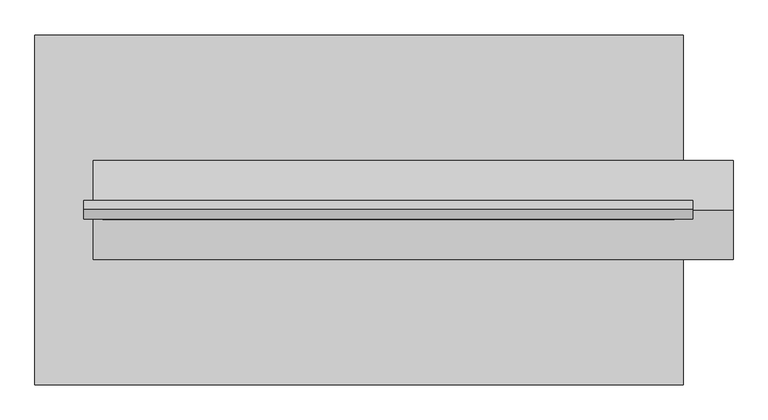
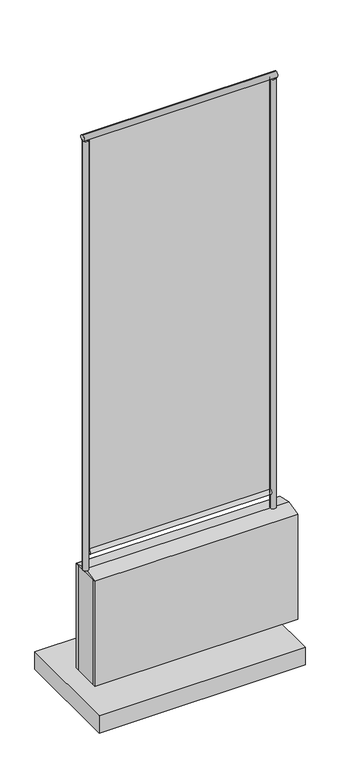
"""IFC4 building model written with IfcOpenShell, lengths in millimetres: plate geometry, FDE_FQ01_FechamentoParaQuadradeEsportes : FQ01_LateraisSapata."""

from ifc_helpers import new_model, si_unit, point, frame, frame_2d, origin, place, context, project, spatial, polyline, circle_curve, trimmed, segment, composite_curve, outline, extrude, source, transform, mapped, element, save


def plate_b688e3d6(model_context):
    return source(origin(), model_context, "Body", "SweptSolid", [
        extrude(outline(composite_curve([segment(trimmed(circle_curve(frame_2d((-505.6494743, 0.0)), 16.0), [point((-521.6494743, 0.0))], [point((-489.6494743, 0.0))], False, "CARTESIAN"), True, "CONTINUOUS"), segment(trimmed(circle_curve(frame_2d((-505.6494743, 0.0)), 16.0), [point((-489.6494743, 0.0))], [point((-521.6494743, 0.0))], False, "CARTESIAN"), True, "CONTINUOUS")], self_intersect=False)), frame((0.0, 0.0, 920.0), z_axis=(0.0, 0.0, 1.0), x_axis=(1.0, 0.0, 0.0)), (0.0, 0.0, 1.0), 2448.0),
        extrude(outline(composite_curve([segment(trimmed(circle_curve(frame_2d((505.6494743, 0.0)), 16.0), [point((489.6494743, 0.0))], [point((521.6494743, 0.0))], False, "CARTESIAN"), True, "CONTINUOUS"), segment(trimmed(circle_curve(frame_2d((505.6494743, 0.0)), 16.0), [point((521.6494743, 0.0))], [point((489.6494743, 0.0))], False, "CARTESIAN"), True, "CONTINUOUS")], self_intersect=False)), frame((0.0, 0.0, 920.0), z_axis=(0.0, 0.0, 1.0), x_axis=(1.0, 0.0, 0.0)), (0.0, 0.0, 1.0), 2448.0),
        extrude(outline(polyline([(505.6494743, 300.0), (505.6494743, -300.0), (-605.6494743, -300.0), (-605.6494743, 300.0), (505.6494743, 300.0)])), frame((0.0, 0.0, 200.0), z_axis=(0.0, 0.0, 1.0), x_axis=(1.0, 0.0, 0.0)), (0.0, 0.0, 1.0), 100.0),
        extrude(outline(polyline([(85.0, 900.0), (-85.0, 900.0), (0.0, 920.0), (85.0, 900.0)])), frame((-505.6494743, 0.0, 0.0), z_axis=(1.0, 0.0, 0.0), x_axis=(0.0, 1.0, 0.0)), (0.0, 0.0, 1.0), 1096.2989486),
        extrude(outline(polyline([(-505.6494743, -85.0), (-505.6494743, -70.0), (590.6494743, -70.0), (590.6494743, -85.0), (-505.6494743, -85.0)])), frame((0.0, 0.0, 300.0), z_axis=(0.0, 0.0, 1.0), x_axis=(1.0, 0.0, 0.0)), (0.0, 0.0, 1.0), 600.0),
        extrude(outline(polyline([(-505.6494743, 70.0), (-505.6494743, 85.0), (590.6494743, 85.0), (590.6494743, 70.0), (-505.6494743, 70.0)])), frame((0.0, 0.0, 300.0), z_axis=(0.0, 0.0, 1.0), x_axis=(1.0, 0.0, 0.0)), (0.0, 0.0, 1.0), 600.0),
        extrude(outline(polyline([(590.6494743, 70.0), (590.6494743, -70.0), (-505.6494743, -70.0), (-505.6494743, 70.0), (590.6494743, 70.0)])), frame((0.0, 0.0, 300.0), z_axis=(0.0, 0.0, 1.0), x_axis=(1.0, 0.0, 0.0)), (0.0, 0.0, 1.0), 600.0),
        extrude(outline(polyline([(489.6494743, -5.0), (-489.6494743, -5.0), (-489.6494743, 5.0), (489.6494743, 5.0), (489.6494743, -5.0)])), frame((0.0, 0.0, 1032.0), z_axis=(0.0, 0.0, 1.0), x_axis=(1.0, 0.0, 0.0)), (0.0, 0.0, 1.0), 2336.0),
        extrude(outline(composite_curve([segment(trimmed(circle_curve(frame_2d((0.0, 1016.0)), 16.0), [point((0.0, 1032.0))], [point((0.0, 1000.0))], False, "CARTESIAN"), True, "CONTINUOUS"), segment(trimmed(circle_curve(frame_2d((0.0, 1016.0)), 16.0), [point((0.0, 1000.0))], [point((0.0, 1032.0))], False, "CARTESIAN"), True, "CONTINUOUS")], self_intersect=False)), frame((-489.6494743, 0.0, 0.0), z_axis=(1.0, 0.0, 0.0), x_axis=(0.0, 1.0, 0.0)), (0.0, 0.0, 1.0), 979.2989486),
        extrude(outline(composite_curve([segment(trimmed(circle_curve(frame_2d((0.0, 3384.0)), 16.0), [point((0.0, 3368.0))], [point((0.0, 3400.0))], False, "CARTESIAN"), True, "CONTINUOUS"), segment(trimmed(circle_curve(frame_2d((0.0, 3384.0)), 16.0), [point((0.0, 3400.0))], [point((0.0, 3368.0))], False, "CARTESIAN"), True, "CONTINUOUS")], self_intersect=False)), frame((-521.6494743, 0.0, 0.0), z_axis=(1.0, 0.0, 0.0), x_axis=(0.0, 1.0, 0.0)), (0.0, 0.0, 1.0), 1043.2989486),
    ])


if __name__ == "__main__":
    model = new_model("IFC4")
    model_context = context("Model", 3, world=origin())
    ifc_project = project(units=[si_unit("LENGTHUNIT", "METRE", prefix="MILLI")], contexts=[model_context])
    site = spatial("IfcSite", under=ifc_project)
    building = spatial("IfcBuilding", under=site)
    placement = place(None, origin())
    plate_shape = plate_b688e3d6(model_context)
    element("IfcPlate", 1, ObjectType="FDE_FQ01_FechamentoParaQuadradeEsportes : FQ01_LateraisSapata", at=placement, inside=building, context=model_context, shape_type="MappedRepresentation", body=[
        mapped(plate_shape, transform((0.0, 0.0, 0.0), x_axis=(1.0, 0.0, 0.0), y_axis=(0.0, 1.0, 0.0), z_axis=(0.0, 0.0, 1.0))),
    ])
    save(model, "model.ifc")
